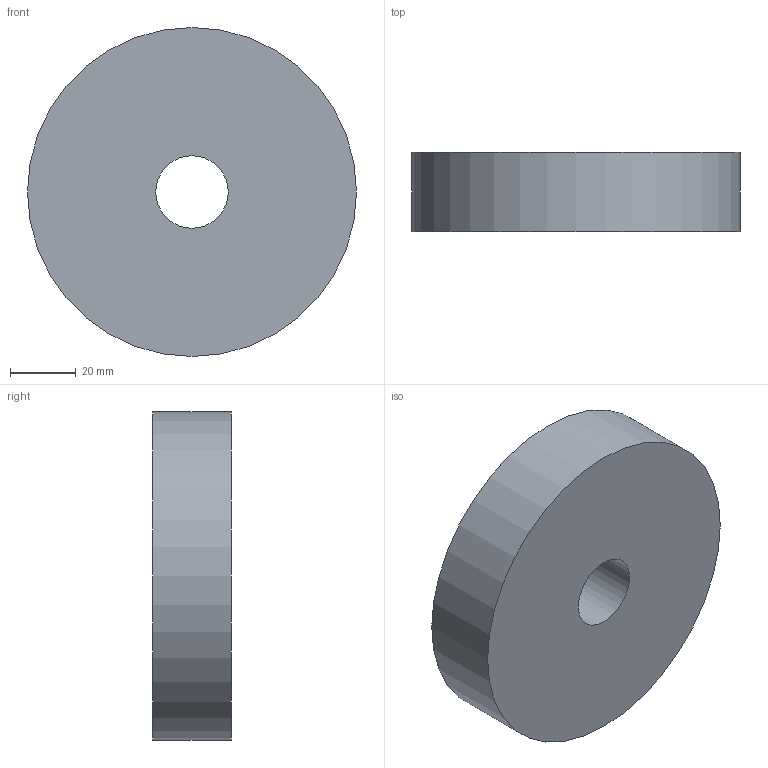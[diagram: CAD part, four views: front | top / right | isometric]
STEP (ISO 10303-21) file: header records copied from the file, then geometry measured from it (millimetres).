
FILE_DESCRIPTION(('Open CASCADE Model'),'2;1');
FILE_NAME('Open CASCADE Shape Model','2026-10-13T11:47:37',('Author'),( 'Open CASCADE'),'Open CASCADE STEP processor 7.8','Open CASCADE 7.8' ,'Unknown');
FILE_SCHEMA(('AUTOMOTIVE_DESIGN { 1 0 10303 214 1 1 1 1 }'));
Length unit declared in the file: millimetre
Products named in the file (1): Open CASCADE STEP translator 7.8 47
Bounding box: 100 x 24 x 100 mm (x, y, z)
Volume: 179372.4 mm3; surface area: 24146.3 mm2
Topology: 1 solids, 1 shells, 4 faces, 6 edges, 4 vertices
Faces by surface type: cylinder 2, plane 2
Full cylindrical faces by diameter (mm): 22 x1, 100 x1
Entity records: 186 total; most frequent: DIRECTION 32, CARTESIAN_POINT 27, ORIENTED_EDGE 12, PCURVE 12, DEFINITIONAL_REPRESENTATION 12, LINE 10, VECTOR 10, AXIS2_PLACEMENT_3D 9
